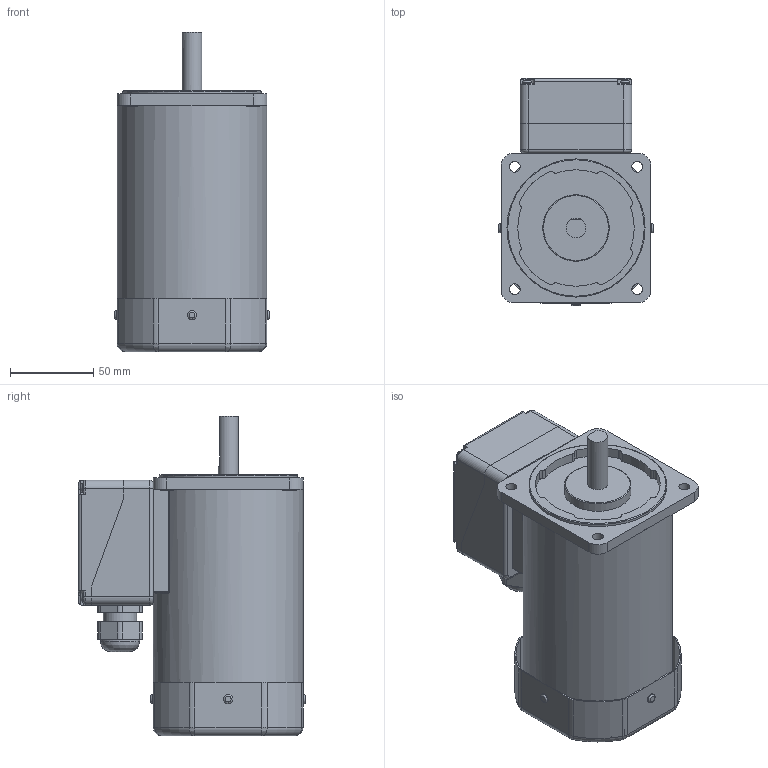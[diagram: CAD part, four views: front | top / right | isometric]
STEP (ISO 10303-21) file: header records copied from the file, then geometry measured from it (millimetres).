
FILE_DESCRIPTION((''),'2;1');
FILE_NAME('E:\2공장-도면\3D\표준형 3D(민규)\step file\K9IS120Fㅁ-C50-T5.stp','2014-11-13T10:05:16',('AHN'),(''),'Autodesk Inventor 2012','Autodesk Inventor 2012','');
FILE_SCHEMA(('CONFIG_CONTROL_DESIGN'));
Length unit declared in the file: millimetre
Products named in the file (5): K9IS120Fㅁ-C50-T5; BASE(a); COVER(a); K9IS180Fㅁ; 케이블
Assembly tree (4 placements, depth 2):
  K9IS120Fㅁ-C50-T5
    BASE(a)
    COVER(a)
    K9IS180Fㅁ
    케이블
Bounding box: 93 x 136.5 x 192 mm (x, y, z)
Volume: 996489.6 mm3; surface area: 133292 mm2
Topology: 4 solids, 10 shells, 697 faces, 1718 edges, 1043 vertices
Faces by surface type: cylinder 315, plane 185, torus 138, bspline 31, sphere 20, cone 8
Full cylindrical faces by diameter (mm): 3.242 x4, 3.5 x4, 4.5 x4, 5.5 x8, 6.5 x4, 8 x4, 12 x1, 20 x1, 21 x1, 23.5 x1, 40 x1, 83 x1, 90 x1
Entity records: 22130 total; most frequent: CARTESIAN_POINT 5514, DIRECTION 3710, ORIENTED_EDGE 3266, EDGE_CURVE 1633, AXIS2_PLACEMENT_3D 1503, VERTEX_POINT 1024, CIRCLE 820, EDGE_LOOP 817
